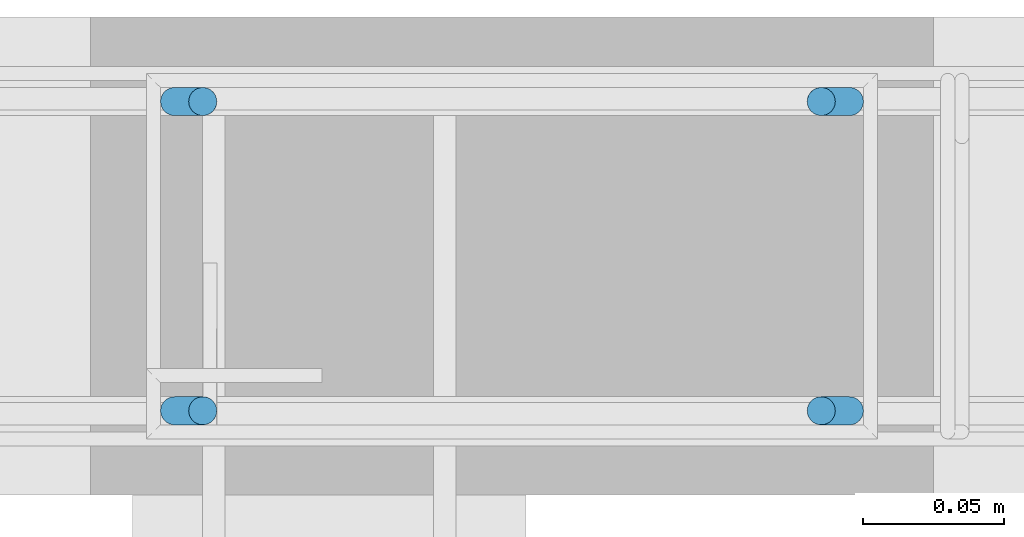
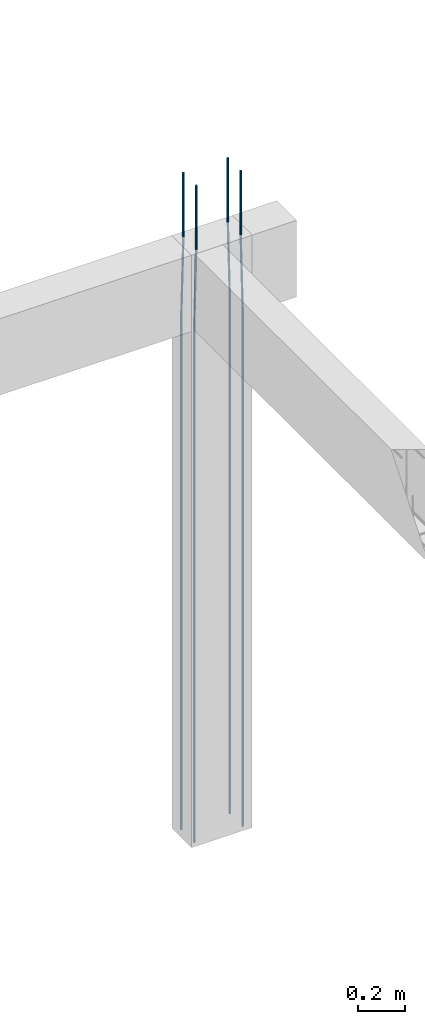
# One storey, part 113 of 236: 4 reinforcing bars.
"""IFC4 building model written with IfcOpenShell, lengths in centimetres."""

from ifc_helpers import new_model, entity, si_unit, derived_unit, frame, origin_with_axes, place, context, project, spatial, element, save


model = new_model("IFC4")

# Units and contexts
model_context = context("Model", 3, precision=1e-05, world=origin_with_axes(), identifier="Body")
ifc_project = project(units=[si_unit("LENGTHUNIT", "METRE", prefix="CENTI"), si_unit("VOLUMEUNIT", "CUBIC_METRE"), si_unit("AREAUNIT", "SQUARE_METRE"), si_unit("POWERUNIT", "WATT"), si_unit("LUMINOUSFLUXUNIT", "LUMEN"), si_unit("ELECTRICCURRENTUNIT", "AMPERE"), si_unit("PRESSUREUNIT", "PASCAL", prefix="KILO"), si_unit("MASSUNIT", "GRAM", prefix="KILO"), si_unit("PLANEANGLEUNIT", "RADIAN"), derived_unit("VOLUMETRICFLOWRATEUNIT", [(si_unit("LENGTHUNIT", "METRE"), 3), (si_unit("TIMEUNIT", "SECOND"), -1)])], contexts=[model_context])

# Site, building, storey
site_placement = place(None, frame((-4000.0, 0.0, 0.0), z_axis=(0.0, 0.0, 1.0), x_axis=(1.0, 0.0, 0.0)))
site = spatial("IfcSite", under=ifc_project, at=site_placement, Name="PADRÃO")
building_placement = place(site_placement, frame((0.0, 0.0, -14.0)))
building = spatial("IfcBuilding", under=site, at=building_placement, Name="CRECHE PRÉ-ESCOLA TIPO 2")
placement_1 = place(building_placement, origin_with_axes())
placement_2 = place(placement_1, frame((0.0, 0.0, 30.0), z_axis=(0.0, 0.0, 1.0), x_axis=(1.0, 0.0, 0.0)))
storey_placement = place(placement_2, frame((0.0, 0.0, 310.0), z_axis=(0.0, 0.0, 1.0), x_axis=(1.0, 0.0, 0.0)))
storey = spatial("IfcBuildingStorey", under=building, at=storey_placement, Name="TERREO", CompositionType="ELEMENT", Elevation=326.0)

# Reinforcing bars
for number, where, z_axis, x_axis, name in (
    (1, (3384.0, 1809.52, 33.3573001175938), (0.0, 0.0, 1.0), (1.0, 0.0, 0.0), "P97 - Longitudinal"),
    (2, (3384.0, 1820.52, 33.3573001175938), (0.0, 0.0, 1.0), (1.0, 0.0, 0.0), "P97 - Longitudinal"),
):
    element("IfcReinforcingBar", number, at=place(storey_placement, frame(where, z_axis=z_axis, x_axis=x_axis)), inside=storey, Name=name, BarLength=0.0, CrossSectionArea=7.853981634e-05, NominalDiameter=1.0, PredefinedType="MAIN", context=model_context, shape_type="AdvancedSweptSolid", body=[
        entity("IfcSweptDiskSolid", entity("IfcCompositeCurve", [entity("IfcCompositeCurveSegment", "CONTINUOUS", True, entity("IfcPolyline", [entity("IfcCartesianPoint", [0.5, 0.0, -343.357300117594]), entity("IfcCartesianPoint", [0.5, 0.0, -73.3573001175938])])), entity("IfcCompositeCurveSegment", "CONTINUOUS", True, entity("IfcPolyline", [entity("IfcCartesianPoint", [0.5, 0.0, -73.3573001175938]), entity("IfcCartesianPoint", [-0.5, 0.0, -33.3573001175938])])), entity("IfcCompositeCurveSegment", "CONTINUOUS", True, entity("IfcPolyline", [entity("IfcCartesianPoint", [-0.5, 0.0, -33.3573001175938]), entity("IfcCartesianPoint", [-0.5, 0.0, 0.0])]))], False), 0.5),
    ])
for number, where, z_axis, x_axis, name in (
    (3, (3361.0, 1820.52, 33.3573001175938), (0.0, 0.0, 1.0), (1.0, 0.0, 0.0), "P97 - Longitudinal"),
    (4, (3361.0, 1809.52, 33.3573001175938), (0.0, 0.0, 1.0), (1.0, 0.0, 0.0), "P97 - Longitudinal"),
):
    element("IfcReinforcingBar", number, at=place(storey_placement, frame(where, z_axis=z_axis, x_axis=x_axis)), inside=storey, Name=name, BarLength=0.0, CrossSectionArea=7.853981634e-05, NominalDiameter=1.0, PredefinedType="MAIN", context=model_context, shape_type="AdvancedSweptSolid", body=[
        entity("IfcSweptDiskSolid", entity("IfcCompositeCurve", [entity("IfcCompositeCurveSegment", "CONTINUOUS", True, entity("IfcPolyline", [entity("IfcCartesianPoint", [-0.5, 0.0, -343.357300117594]), entity("IfcCartesianPoint", [-0.5, 0.0, -73.3573001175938])])), entity("IfcCompositeCurveSegment", "CONTINUOUS", True, entity("IfcPolyline", [entity("IfcCartesianPoint", [-0.5, 0.0, -73.3573001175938]), entity("IfcCartesianPoint", [0.5, 0.0, -33.3573001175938])])), entity("IfcCompositeCurveSegment", "CONTINUOUS", True, entity("IfcPolyline", [entity("IfcCartesianPoint", [0.5, 0.0, -33.3573001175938]), entity("IfcCartesianPoint", [0.5, 0.0, 0.0])]))], False), 0.5),
    ])

save(model, "model.ifc")
